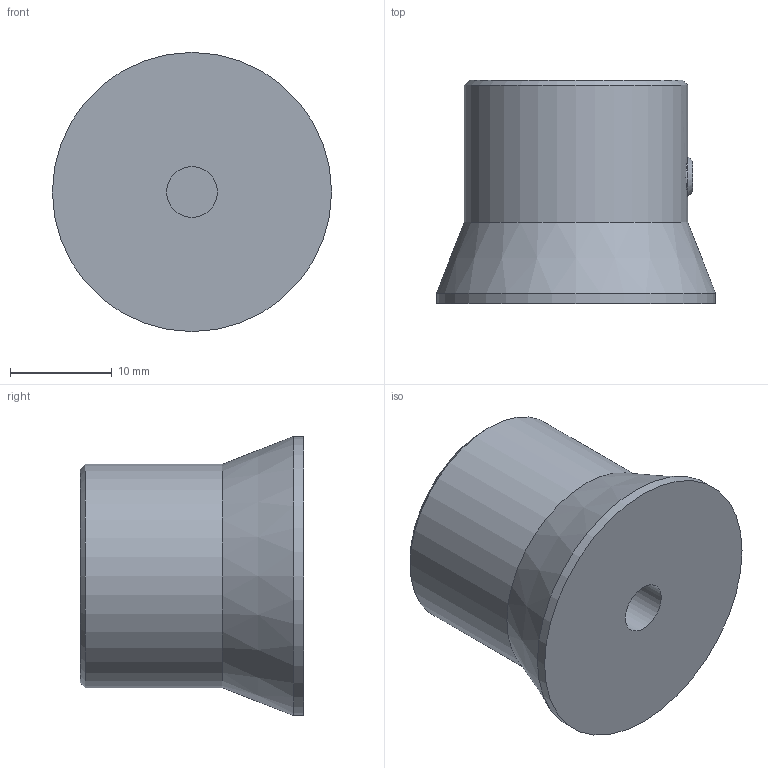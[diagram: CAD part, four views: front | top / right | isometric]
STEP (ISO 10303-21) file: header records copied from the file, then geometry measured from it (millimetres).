
FILE_DESCRIPTION( ( 'STEP AP203' ), '1' );
FILE_NAME( 'C:/Temp/Ganter_Step_05_03_2020/data/1_4/gn_726_2/gn_726_2_a/gn_726_2_a_1/Control knob GN 726.2-22-B5-A-1.stp', '2020-03-05T10:49:57', ( 'License CC BY-ND 4.0' ), ( 'CADENAS' ), ' ', 'PARTsolutions', ' ' );
FILE_SCHEMA( ( 'CONFIG_CONTROL_DESIGN' ) );
Length unit declared in the file: millimetre
Products named in the file (1): _Control knob GN 726.2-22-B5-A-1
Bounding box: 27.5 x 22 x 27.5 mm (x, y, z)
Volume: 8836 mm3; surface area: 2904.3 mm2
Topology: 1 solids, 1 shells, 102 faces, 283 edges, 186 vertices
Faces by surface type: cylinder 63, plane 35, cone 4
Full cylindrical faces by diameter (mm): 5 x1, 22 x1, 27.5 x1
Entity records: 3609 total; most frequent: CARTESIAN_POINT 1032, ORIENTED_EDGE 550, DIRECTION 503, EDGE_CURVE 275, AXIS2_PLACEMENT_3D 190, VERTEX_POINT 185, LINE 123, VECTOR 123
